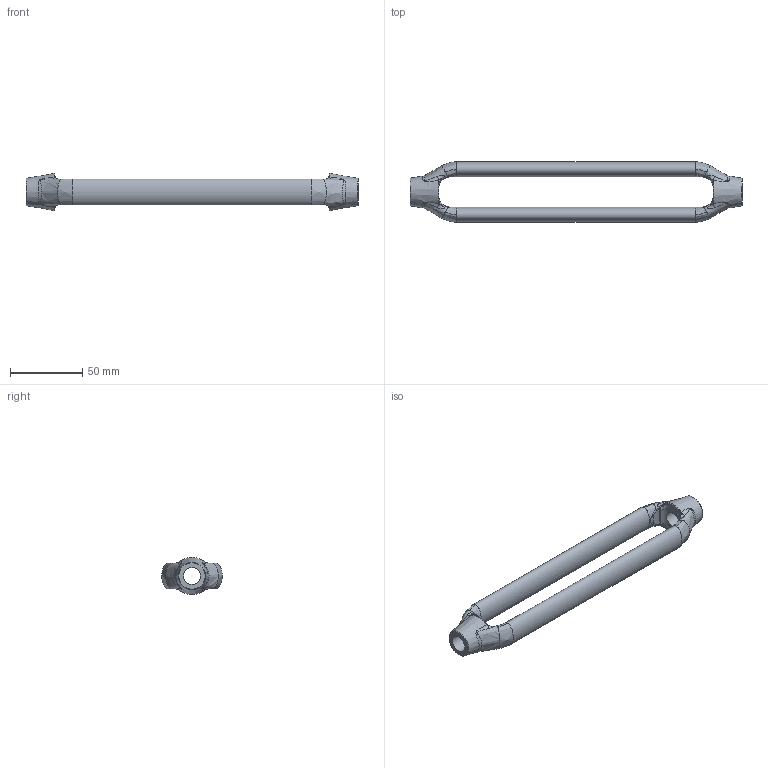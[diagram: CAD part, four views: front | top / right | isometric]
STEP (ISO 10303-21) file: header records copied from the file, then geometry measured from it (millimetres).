
FILE_DESCRIPTION(/* description */ (''),/* implementation_level */ '2;1');
FILE_NAME(/* name */ 'C:\Users\D\Documents\Inventor\各種小物\JIS\ターンバックル\胴\JIS\M14.stp',/* time_stamp */ '2022-06-17T10:59:20+09:00',/* author */ ('D'),/* organization */ (''),/* preprocessor_version */ 'ST-DEVELOPER v18',/* originating_system */ 'Autodesk Inventor 2020',/* authorisation */ '');
FILE_SCHEMA (('AUTOMOTIVE_DESIGN { 1 0 10303 214 3 1 1 }'));
Length unit declared in the file: millimetre
Products named in the file (1): M12
Bounding box: 230 x 41.99 x 25.86 mm (x, y, z)
Volume: 69846.8 mm3; surface area: 22839.9 mm2
Topology: 1 solids, 1 shells, 130 faces, 321 edges, 173 vertices
Faces by surface type: bspline 90, cylinder 18, plane 14, torus 6, cone 2
Full cylindrical faces by diameter (mm): 11.835 x2
Entity records: 6467 total; most frequent: CARTESIAN_POINT 3917, ORIENTED_EDGE 610, DIRECTION 390, EDGE_CURVE 305, AXIS2_PLACEMENT_3D 178, VERTEX_POINT 173, B_SPLINE_CURVE_WITH_KNOTS 134, EDGE_LOOP 132
